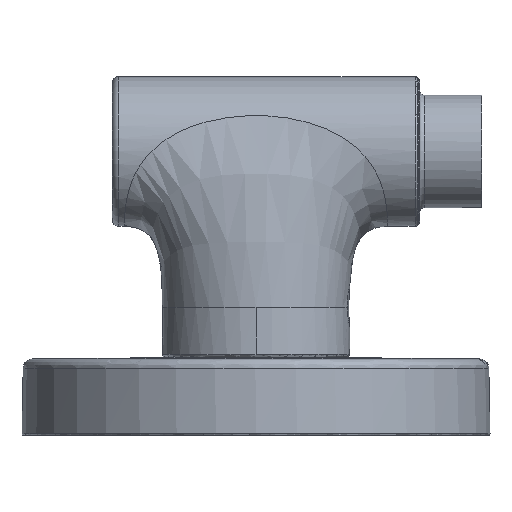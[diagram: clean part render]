
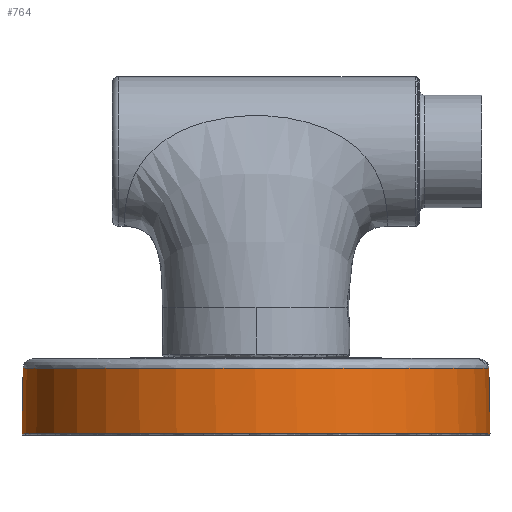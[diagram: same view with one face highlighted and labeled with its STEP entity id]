
A CAD part, left-side view. The second image highlights one B-rep face of the part: STEP entity #764.
In plain terms, the highlighted conical face has half-angle 1 degrees and reference radius 37.495 mm.
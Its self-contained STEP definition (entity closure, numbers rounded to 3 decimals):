
#12 = DIRECTION ( 'NONE',  ( 0., 0.017, -1. ) ) ;
#73 = AXIS2_PLACEMENT_3D ( 'NONE', #1067, #1611, #886 ) ;
#132 = VERTEX_POINT ( 'NONE', #1147 ) ;
#146 = DIRECTION ( 'NONE',  ( 0., -1., 0. ) ) ;
#160 = CIRCLE ( 'NONE', #1069, 37.495 ) ;
#203 = LINE ( 'NONE', #360, #2115 ) ;
#276 = AXIS2_PLACEMENT_3D ( 'NONE', #2175, #520, #1078 ) ;
#283 = CARTESIAN_POINT ( 'NONE',  ( 0., 300., 10.393 ) ) ;
#287 = CARTESIAN_POINT ( 'NONE',  ( 0., 262.688, 10.393 ) ) ;
#319 = CARTESIAN_POINT ( 'NONE',  ( 0., 337.312, 10.393 ) ) ;
#360 = CARTESIAN_POINT ( 'NONE',  ( 0., 262.505, -0.095 ) ) ;
#520 = DIRECTION ( 'NONE',  ( 0., 0., 1. ) ) ;
#554 = ORIENTED_EDGE ( 'NONE', *, *, #1555, .F. ) ;
#619 = FACE_OUTER_BOUND ( 'NONE', #1587, .T. ) ;
#644 = CARTESIAN_POINT ( 'NONE',  ( 0., 300., -0.095 ) ) ;
#740 = EDGE_CURVE ( 'NONE', #2259, #1659, #1084, .T. ) ;
#764 = ADVANCED_FACE ( 'NONE', ( #619 ), #1300, .T. ) ;
#822 = AXIS2_PLACEMENT_3D ( 'NONE', #1270, #1651, #146 ) ;
#863 = DIRECTION ( 'NONE',  ( 0., -1., 0. ) ) ;
#881 = ORIENTED_EDGE ( 'NONE', *, *, #1878, .F. ) ;
#886 = DIRECTION ( 'NONE',  ( 0.006, 1., 0. ) ) ;
#922 = LINE ( 'NONE', #1298, #2247 ) ;
#927 = ORIENTED_EDGE ( 'NONE', *, *, #740, .T. ) ;
#975 = VERTEX_POINT ( 'NONE', #319 ) ;
#1024 = EDGE_CURVE ( 'NONE', #1680, #2259, #160, .T. ) ;
#1029 = VERTEX_POINT ( 'NONE', #287 ) ;
#1067 = CARTESIAN_POINT ( 'NONE',  ( 0., 300., 10.393 ) ) ;
#1069 = AXIS2_PLACEMENT_3D ( 'NONE', #644, #2330, #863 ) ;
#1078 = DIRECTION ( 'NONE',  ( 0., -1., 0. ) ) ;
#1084 = CIRCLE ( 'NONE', #276, 37.495 ) ;
#1147 = CARTESIAN_POINT ( 'NONE',  ( -0.233, 262.689, 10.393 ) ) ;
#1150 = AXIS2_PLACEMENT_3D ( 'NONE', #283, #1568, #1575 ) ;
#1198 = ORIENTED_EDGE ( 'NONE', *, *, #1024, .T. ) ;
#1216 = CARTESIAN_POINT ( 'NONE',  ( 0., 337.495, -0.095 ) ) ;
#1270 = CARTESIAN_POINT ( 'NONE',  ( 0., 300., -0.095 ) ) ;
#1298 = CARTESIAN_POINT ( 'NONE',  ( 0., 337.495, -0.095 ) ) ;
#1300 = CONICAL_SURFACE ( 'NONE', #822, 37.495, 0.017 ) ;
#1412 = CIRCLE ( 'NONE', #73, 37.312 ) ;
#1418 = EDGE_CURVE ( 'NONE', #975, #1680, #922, .T. ) ;
#1555 = EDGE_CURVE ( 'NONE', #132, #1029, #2371, .T. ) ;
#1568 = DIRECTION ( 'NONE',  ( 0., 0., 1. ) ) ;
#1575 = DIRECTION ( 'NONE',  ( 0.006, 1., 0. ) ) ;
#1587 = EDGE_LOOP ( 'NONE', ( #1831, #1760, #1198, #927, #881, #554 ) ) ;
#1611 = DIRECTION ( 'NONE',  ( 0., 0., 1. ) ) ;
#1651 = DIRECTION ( 'NONE',  ( 0., 0., -1. ) ) ;
#1659 = VERTEX_POINT ( 'NONE', #2318 ) ;
#1680 = VERTEX_POINT ( 'NONE', #1216 ) ;
#1708 = EDGE_CURVE ( 'NONE', #975, #132, #1412, .T. ) ;
#1760 = ORIENTED_EDGE ( 'NONE', *, *, #1418, .T. ) ;
#1831 = ORIENTED_EDGE ( 'NONE', *, *, #1708, .F. ) ;
#1878 = EDGE_CURVE ( 'NONE', #1029, #1659, #203, .T. ) ;
#2115 = VECTOR ( 'NONE', #2202, 1000. ) ;
#2157 = CARTESIAN_POINT ( 'NONE',  ( -0.165, 337.494, -0.095 ) ) ;
#2175 = CARTESIAN_POINT ( 'NONE',  ( 0., 300., -0.095 ) ) ;
#2202 = DIRECTION ( 'NONE',  ( 0., -0.017, -1. ) ) ;
#2247 = VECTOR ( 'NONE', #12, 1000. ) ;
#2259 = VERTEX_POINT ( 'NONE', #2157 ) ;
#2318 = CARTESIAN_POINT ( 'NONE',  ( 0., 262.505, -0.095 ) ) ;
#2330 = DIRECTION ( 'NONE',  ( 0., 0., 1. ) ) ;
#2371 = CIRCLE ( 'NONE', #1150, 37.312 ) ;
